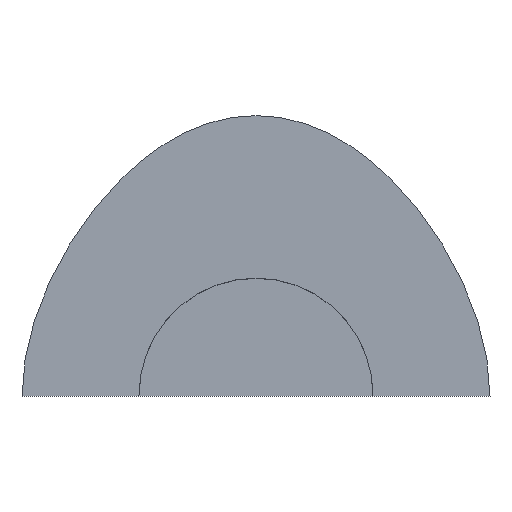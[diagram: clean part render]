
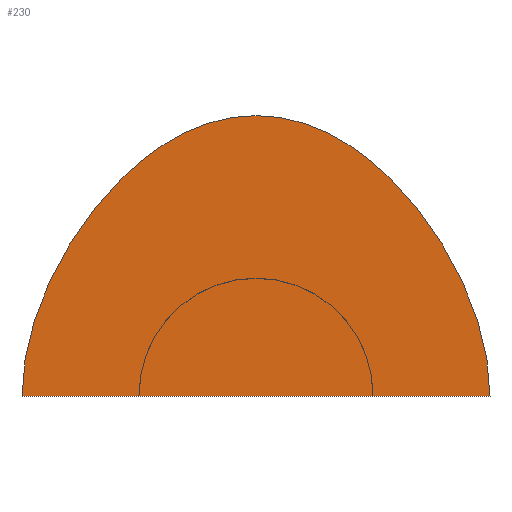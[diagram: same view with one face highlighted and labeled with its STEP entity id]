
A CAD part, top view. The second image highlights one B-rep face of the part: STEP entity #230.
In plain terms, the highlighted planar face has unit normal (0, 0, 1).
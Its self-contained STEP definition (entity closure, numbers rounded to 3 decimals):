
#193=CARTESIAN_POINT('Axis2P3D Location',(0.,48.656,0.)) ;
#198=CARTESIAN_POINT('Line Origine',(0.,0.,0.)) ;
#202=CARTESIAN_POINT('Vertex',(-100.,0.,0.)) ;
#204=CARTESIAN_POINT('Vertex',(100.,0.,0.)) ;
#208=CARTESIAN_POINT('Control Point',(0.,120.,0.)) ;
#209=CARTESIAN_POINT('Control Point',(31.241,120.,0.)) ;
#210=CARTESIAN_POINT('Control Point',(60.146,101.715,0.)) ;
#211=CARTESIAN_POINT('Control Point',(86.715,65.146,0.)) ;
#212=CARTESIAN_POINT('Control Point',(100.,31.241,0.)) ;
#213=CARTESIAN_POINT('Control Point',(100.,0.,0.)) ;
#214=CARTESIAN_POINT('Vertex',(0.,120.,0.)) ;
#218=CARTESIAN_POINT('Control Point',(0.,120.,0.)) ;
#219=CARTESIAN_POINT('Control Point',(-31.241,120.,0.)) ;
#220=CARTESIAN_POINT('Control Point',(-60.146,101.715,0.)) ;
#221=CARTESIAN_POINT('Control Point',(-86.715,65.146,0.)) ;
#222=CARTESIAN_POINT('Control Point',(-100.,31.241,0.)) ;
#223=CARTESIAN_POINT('Control Point',(-100.,0.,0.)) ;
#194=DIRECTION('Axis2P3D Direction',(0.,0.,1.)) ;
#195=DIRECTION('Axis2P3D XDirection',(1.,0.,0.)) ;
#199=DIRECTION('Vector Direction',(1.,0.,0.)) ;
#196=AXIS2_PLACEMENT_3D('Plane Axis2P3D',#193,#194,#195) ;
#226=ORIENTED_EDGE('',*,*,#206,.T.) ;
#227=ORIENTED_EDGE('',*,*,#216,.T.) ;
#228=ORIENTED_EDGE('',*,*,#224,.T.) ;
#200=VECTOR('Line Direction',#199,1.) ;
#230=ADVANCED_FACE('Fill.1',(#229),#197,.T.) ;
#207=B_SPLINE_CURVE_WITH_KNOTS('',5,(#208,#209,#210,#211,#212,#213),.UNSPECIFIED.,.F.,.U.,(6,6),(0.,156.205),.UNSPECIFIED.) ;
#217=B_SPLINE_CURVE_WITH_KNOTS('',5,(#218,#219,#220,#221,#222,#223),.UNSPECIFIED.,.F.,.U.,(6,6),(0.,156.205),.UNSPECIFIED.) ;
#206=EDGE_CURVE('',#203,#205,#201,.T.) ;
#216=EDGE_CURVE('',#205,#215,#207,.F.) ;
#224=EDGE_CURVE('',#215,#203,#217,.T.) ;
#225=EDGE_LOOP('',(#226,#227,#228)) ;
#229=FACE_OUTER_BOUND('',#225,.T.) ;
#201=LINE('Line',#198,#200) ;
#197=PLANE('',#196) ;
#203=VERTEX_POINT('',#202) ;
#205=VERTEX_POINT('',#204) ;
#215=VERTEX_POINT('',#214) ;
